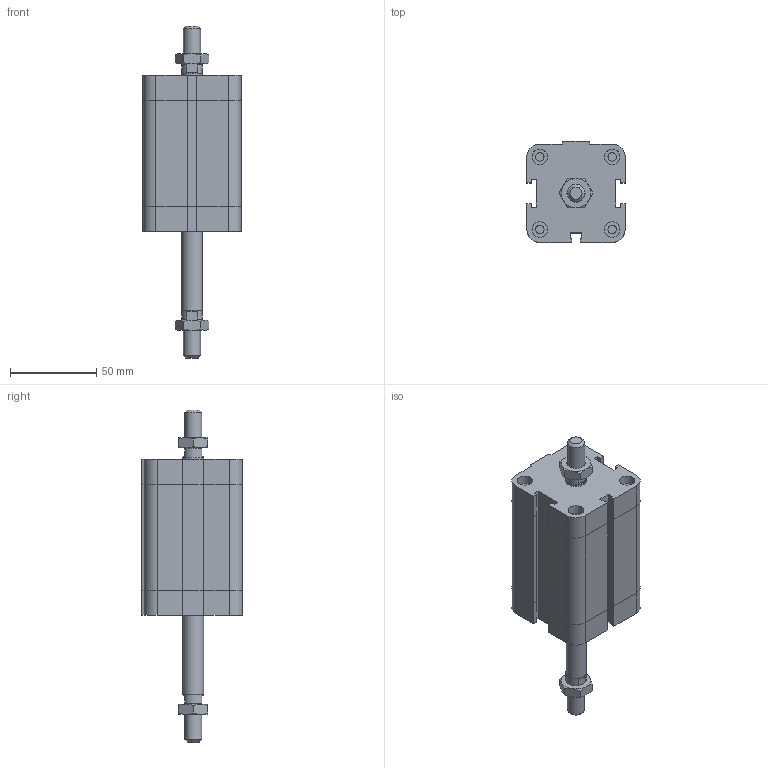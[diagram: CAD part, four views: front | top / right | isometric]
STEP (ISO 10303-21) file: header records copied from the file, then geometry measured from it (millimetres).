
FILE_DESCRIPTION((''),'2;1');
FILE_NAME('I:\Area Tecnica\Disegni\VARIE-3D\Componenti\EUROPE\15##_###_####_04_#\1581_40_0045_04_1.iam.stp','2009-04-20T14:51:39',(''),(''),'Autodesk Inventor 2009','Autodesk Inventor 2009','');
FILE_SCHEMA(('AUTOMOTIVE_DESIGN { 1 0 10303 214 1 1 1 1 }'));
Length unit declared in the file: millimetre
Products named in the file (4): 1581_40_0045_04_1; 1581_40_0045_03_1_C; 1561_40_0045_04_1_S; DBFM10
Assembly tree (4 placements, depth 2):
  1581_40_0045_04_1
    1581_40_0045_03_1_C
    1561_40_0045_04_1_S
    DBFM10  x2
Bounding box: 57 x 58.5 x 192.5 mm (x, y, z)
Volume: 280910.8 mm3; surface area: 45719.8 mm2
Topology: 4 solids, 4 shells, 222 faces, 483 edges, 289 vertices
Faces by surface type: plane 129, cone 35, bspline 33, cylinder 25
Full cylindrical faces by diameter (mm): 4.917 x4, 8.8 x1, 9 x4, 10 x1, 11.7 x2, 12 x1
Entity records: 5450 total; most frequent: CARTESIAN_POINT 1222, DIRECTION 802, ORIENTED_EDGE 772, EDGE_CURVE 386, AXIS2_PLACEMENT_3D 272, EDGE_LOOP 258, VECTOR 258, LINE 258
